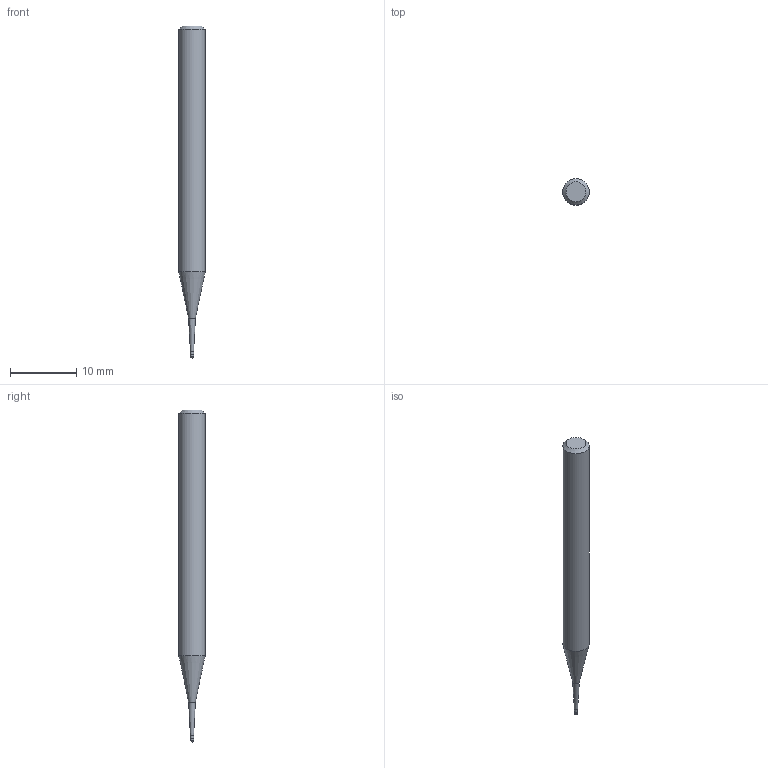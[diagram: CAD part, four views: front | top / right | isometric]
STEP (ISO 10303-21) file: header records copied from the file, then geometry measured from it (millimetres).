
FILE_DESCRIPTION((''),'2;1');
FILE_NAME('C:\Users\nsx150\AppData\Local\Temp\Mastercam 2021\SNAKH10GOD\TEMP.step','2021-10-21T13:31:19',(''),(''),'STEP Write','Mastercam 2021 ... CNC Software, Inc.','');
FILE_SCHEMA(('AUTOMOTIVE_DESIGN'));
Length unit declared in the file: millimetre
Products named in the file (1): None
Bounding box: 4 x 4 x 50 mm (x, y, z)
Volume: 504.6 mm3; surface area: 543.7 mm2
Topology: 2 solids, 2 shells, 10 faces, 16 edges, 9 vertices
Faces by surface type: plane 3, cylinder 3, cone 3, sphere 1
Full cylindrical faces by diameter (mm): 0.485 x1, 0.5 x1, 4 x1
Entity records: 232 total; most frequent: DIRECTION 40, CARTESIAN_POINT 28, AXIS2_PLACEMENT_3D 20, ORIENTED_EDGE 16, EDGE_LOOP 16, STYLED_ITEM 13, ADVANCED_FACE 10, FACE_BOUND 9
